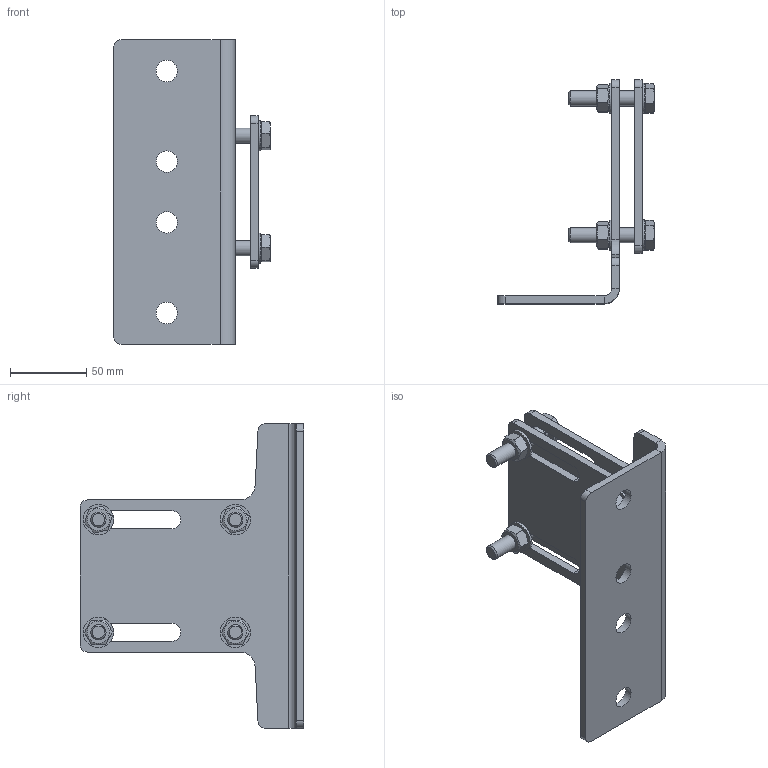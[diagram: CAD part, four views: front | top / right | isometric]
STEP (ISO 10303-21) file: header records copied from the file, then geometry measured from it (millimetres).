
FILE_DESCRIPTION(/* description */ (''),/* implementation_level */ '2;1');
FILE_NAME(/* name */ 'D:\VDV Techniek\Documents\Inventor\_ISP_Products\UDG on FlatBar\UDG FlatBarKit Clamped\STP\FlatBar 10x80mm-out-Mounting bracket.stp',/* time_stamp */ '2022-12-29T15:52:56+01:00',/* author */ ('jos'),/* organization */ (''),/* preprocessor_version */ 'ST-DEVELOPER v15.2',/* originating_system */ 'Autodesk Inventor 2014',/* authorisation */ '');
FILE_SCHEMA (('AUTOMOTIVE_DESIGN { 1 0 10303 214 3 1 1 }'));
Length unit declared in the file: millimetre
Products named in the file (6): UDG_Mounting_Bracket_universal_HDG; UDG_Counter_Plate_universal_HDG; ISO 4032 - M10DIN EN; DIN 126 - 11; DIN 933 - M10  x 50; FlatBar 10x80mm-out-Mounting bracket
Assembly tree (18 placements, depth 2):
  FlatBar 10x80mm-out-Mounting bracket
    UDG_Mounting_Bracket_universal_HDG
    UDG_Counter_Plate_universal_HDG
    ISO 4032 - M10DIN EN  x4
    DIN 126 - 11  x8
    DIN 933 - M10  x 50  x4
Bounding box: 103.1 x 147 x 200 mm (x, y, z)
Volume: 228774.5 mm3; surface area: 108236.1 mm2
Topology: 18 solids, 18 shells, 228 faces, 504 edges, 320 vertices
Faces by surface type: plane 118, cylinder 62, cone 48
Full cylindrical faces by diameter (mm): 8.376 x4, 9.188 x4, 10 x4, 11 x8, 12 x4, 14 x4, 15.4 x4, 20 x8
Entity records: 3034 total; most frequent: CARTESIAN_POINT 538, DIRECTION 520, ORIENTED_EDGE 434, EDGE_CURVE 217, AXIS2_PLACEMENT_3D 205, VERTEX_POINT 151, EDGE_LOOP 148, LINE 110
